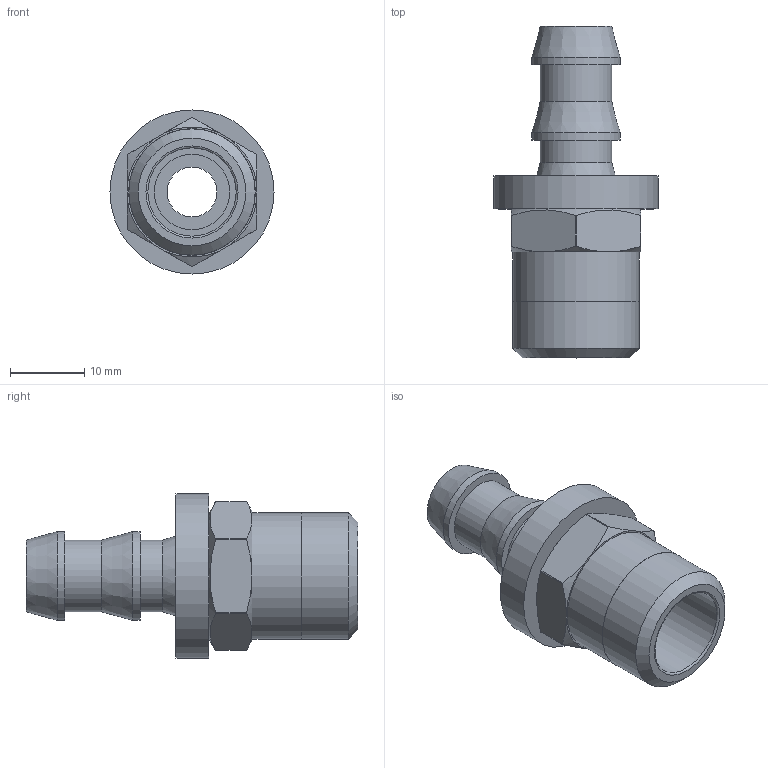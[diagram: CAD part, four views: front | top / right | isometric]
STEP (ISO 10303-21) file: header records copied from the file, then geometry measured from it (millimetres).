
FILE_DESCRIPTION(/* description */ (''),/* implementation_level */ '2;1');
FILE_NAME(/* name */ 'C:/Users/drich/Desktop/PLM-06-06 v1.step',/* time_stamp */ '2020-02-02T14:45:46-06:00',/* author */ (''),/* organization */ (''),/* preprocessor_version */ 'ST-DEVELOPER v18',/* originating_system */ 'Autodesk Translation Framework v8.12.0.6',/* authorisation */ '');
FILE_SCHEMA (('AUTOMOTIVE_DESIGN { 1 0 10303 214 3 1 1 }'));
Length unit declared in the file: inch
Products named in the file (3): PLM-06-06; -06 BARB ONLY; FW-8
Assembly tree (2 placements, depth 2):
  PLM-06-06
    -06 BARB ONLY
    FW-8
Bounding box: 22.1 x 44.7 x 22.1 mm (x, y, z)
Volume: 4571.9 mm3; surface area: 4765.1 mm2
Topology: 3 solids, 3 shells, 52 faces, 139 edges, 100 vertices
Faces by surface type: cylinder 20, plane 19, cone 12, torus 1
Full cylindrical faces by diameter (mm): 6.731 x1, 9.652 x2, 10.16 x1, 10.312 x1, 11.684 x1, 11.887 x1, 11.938 x3, 17.018 x1, 17.069 x1, 19.558 x1, 22.098 x1
Entity records: 1798 total; most frequent: CARTESIAN_POINT 332, DIRECTION 318, ORIENTED_EDGE 278, AXIS2_PLACEMENT_3D 140, EDGE_CURVE 139, VERTEX_POINT 100, CIRCLE 83, EDGE_LOOP 65
